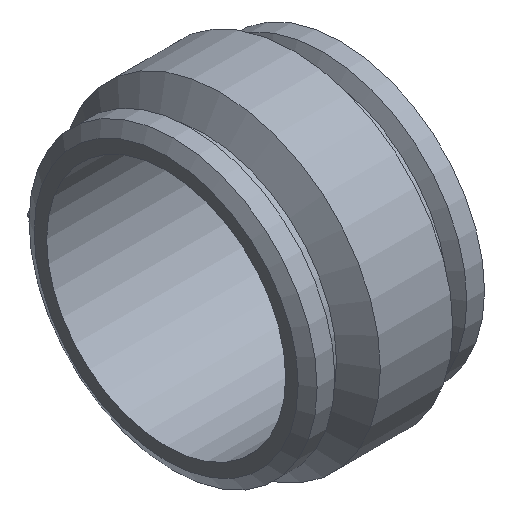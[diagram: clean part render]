
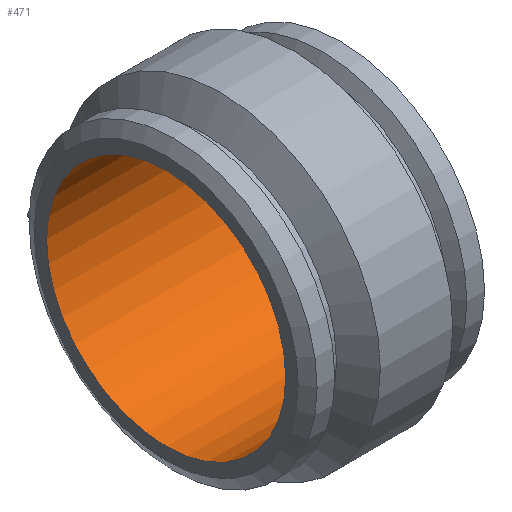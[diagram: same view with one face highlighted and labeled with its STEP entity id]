
A CAD part, isometric view. The second image highlights one B-rep face of the part: STEP entity #471.
In plain terms, the highlighted cylindrical face has radius 202.3 mm (diameter 404.6 mm), a full revolution.
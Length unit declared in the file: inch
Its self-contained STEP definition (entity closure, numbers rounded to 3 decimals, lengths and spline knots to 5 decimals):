
#61=CIRCLE('',#549,7.96457);
#62=CIRCLE('',#550,7.96457);
#63=CIRCLE('',#552,7.96457);
#64=CIRCLE('',#553,7.96457);
#76=CYLINDRICAL_SURFACE('',#551,7.96457);
#111=FACE_OUTER_BOUND('',#146,.T.);
#146=EDGE_LOOP('',(#433,#434,#435,#436,#437,#438));
#168=LINE('',#1232,#188);
#188=VECTOR('',#694,7.96457);
#241=VERTEX_POINT('',#1226);
#242=VERTEX_POINT('',#1227);
#243=VERTEX_POINT('',#1231);
#244=VERTEX_POINT('',#1233);
#306=EDGE_CURVE('',#241,#242,#61,.T.);
#307=EDGE_CURVE('',#242,#241,#62,.T.);
#308=EDGE_CURVE('',#242,#243,#168,.T.);
#309=EDGE_CURVE('',#244,#243,#63,.T.);
#310=EDGE_CURVE('',#243,#244,#64,.T.);
#433=ORIENTED_EDGE('',*,*,#306,.T.);
#434=ORIENTED_EDGE('',*,*,#308,.T.);
#435=ORIENTED_EDGE('',*,*,#309,.F.);
#436=ORIENTED_EDGE('',*,*,#310,.F.);
#437=ORIENTED_EDGE('',*,*,#308,.F.);
#438=ORIENTED_EDGE('',*,*,#307,.T.);
#471=ADVANCED_FACE('',(#111),#76,.F.);
#549=AXIS2_PLACEMENT_3D('',#1228,#688,#689);
#550=AXIS2_PLACEMENT_3D('',#1229,#690,#691);
#551=AXIS2_PLACEMENT_3D('',#1230,#692,#693);
#552=AXIS2_PLACEMENT_3D('',#1234,#695,#696);
#553=AXIS2_PLACEMENT_3D('',#1235,#697,#698);
#688=DIRECTION('center_axis',(1.,0.,0.));
#689=DIRECTION('ref_axis',(0.,0.,-1.));
#690=DIRECTION('center_axis',(1.,0.,0.));
#691=DIRECTION('ref_axis',(0.,0.,-1.));
#692=DIRECTION('center_axis',(1.,0.,0.));
#693=DIRECTION('ref_axis',(0.,1.,0.));
#694=DIRECTION('',(-1.,0.,0.));
#695=DIRECTION('center_axis',(1.,0.,0.));
#696=DIRECTION('ref_axis',(0.,0.,-1.));
#697=DIRECTION('center_axis',(1.,0.,0.));
#698=DIRECTION('ref_axis',(0.,0.,-1.));
#1226=CARTESIAN_POINT('',(6.04,7.96457,0.));
#1227=CARTESIAN_POINT('',(6.04,-7.96457,0.));
#1228=CARTESIAN_POINT('Origin',(6.04,0.,0.));
#1229=CARTESIAN_POINT('Origin',(6.04,0.,0.));
#1230=CARTESIAN_POINT('Origin',(-3.03,0.,0.));
#1231=CARTESIAN_POINT('',(-6.04,-7.96457,0.));
#1232=CARTESIAN_POINT('',(-3.03,-7.96457,0.));
#1233=CARTESIAN_POINT('',(-6.04,7.96457,0.));
#1234=CARTESIAN_POINT('Origin',(-6.04,0.,0.));
#1235=CARTESIAN_POINT('Origin',(-6.04,0.,0.));
